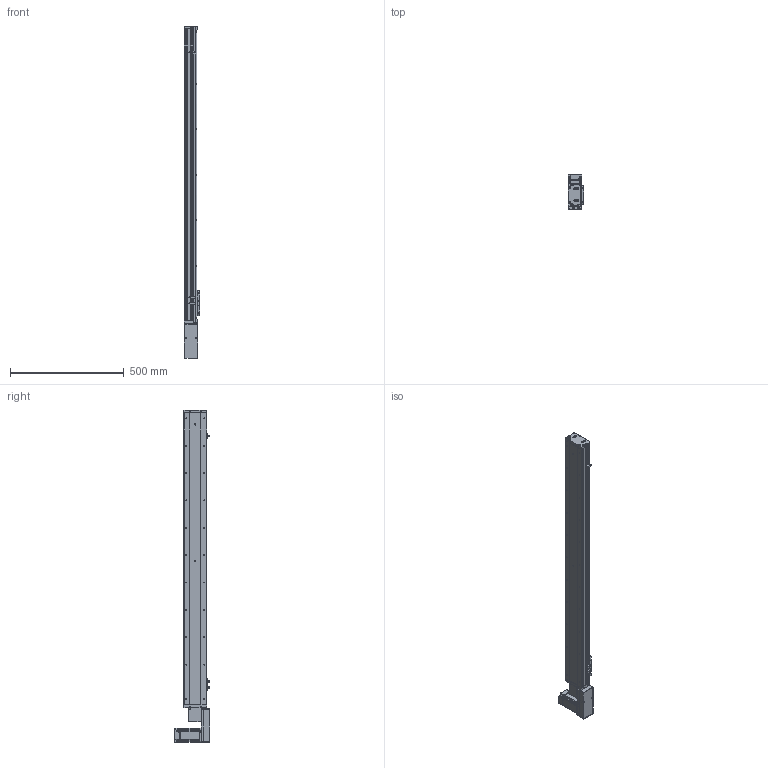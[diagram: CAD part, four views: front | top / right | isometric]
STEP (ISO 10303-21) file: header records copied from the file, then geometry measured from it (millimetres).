
FILE_DESCRIPTION (( 'STEP AP214' ), '1' );
FILE_NAME ('KSD100B-S1100-MRB-CR.STEP', '2019-09-07T09:12:48', ( '微软用户' ), ( '微软中国' ), 'SwSTEP 2.0', 'SolidWorks 2014', '' );
FILE_SCHEMA (( 'AUTOMOTIVE_DESIGN' ));
Length unit declared in the file: millimetre
Products named in the file (14): MHMD042G1CA_2_03; 悵誘欶奻狟殏; 100宽马达安装板连板上下折丝杆同步带; U倰嫖萇EEㄜSX672; 100宽马达安装板同步带右; 100遵鎮湛假蚾啣蜊; 100宽端板同步带全封闭; 100宽滚珠螺姆安装板1防护罩; 100宽滚珠螺姆安装板1; 100遵裔啣揤啣; 100遵裔啣1100俴最; 100宽侧板1100行程同步带; 100宽底板全封闭1100行程同步带; KSD100B-S1100-MRB-CR
Assembly tree (17 placements, depth 2):
  KSD100B-S1100-MRB-CR
    100宽底板全封闭1100行程同步带
    100宽侧板1100行程同步带  x2
    100遵裔啣1100俴最
    100遵裔啣揤啣  x2
    100宽滚珠螺姆安装板1
    100宽滚珠螺姆安装板1防护罩
    100宽端板同步带全封闭
    100遵鎮湛假蚾啣蜊
    100宽马达安装板同步带右
    U倰嫖萇EEㄜSX672  x3
    100宽马达安装板连板上下折丝杆同步带
    悵誘欶奻狟殏
    MHMD042G1CA_2_03
Bounding box: 70 x 156.2 x 1457 mm (x, y, z)
Volume: 2681159.5 mm3; surface area: 1183626.3 mm2
Topology: 16 solids, 17 shells, 1831 faces, 5118 edges, 3259 vertices
Faces by surface type: cylinder 829, plane 723, cone 259, bspline 20
Entity records: 65006 total; most frequent: CARTESIAN_POINT 9983, DIRECTION 8880, ORIENTED_EDGE 8172, EDGE_CURVE 4158, AXIS2_PLACEMENT_3D 3230, VERTEX_POINT 2757, LINE 2420, VECTOR 2420
